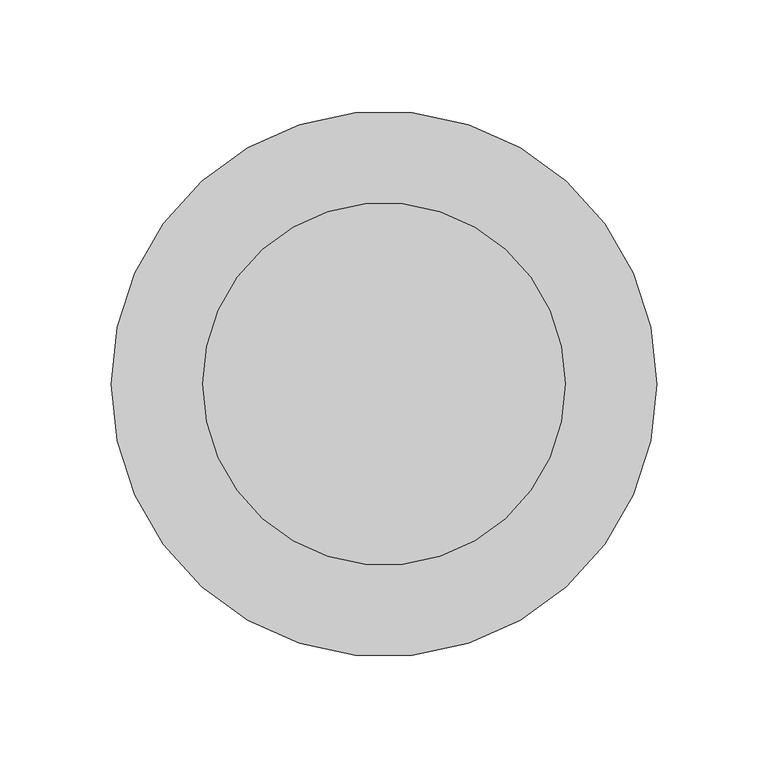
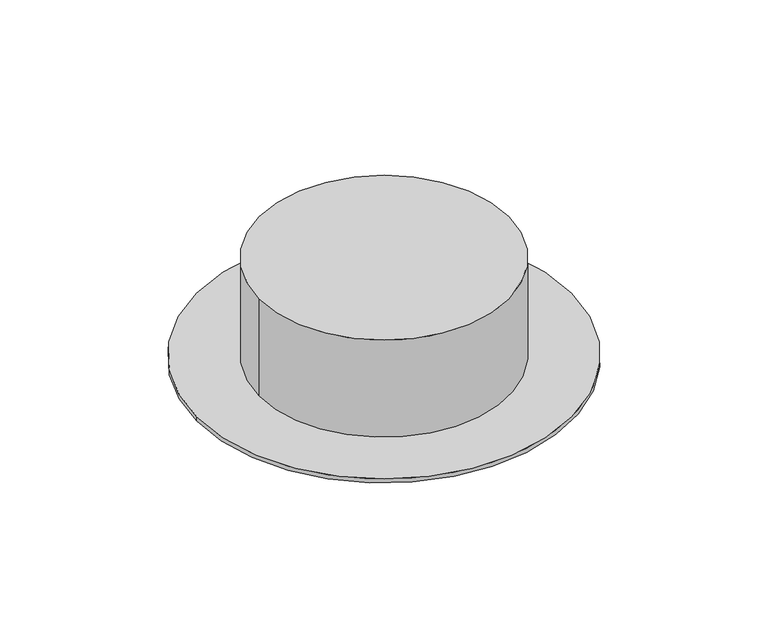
"""IFC4 building model written with IfcOpenShell, lengths in millimetres: proxy geometry, Building Materials_Other_Accessory_PIPE BASE_for ATLANTIS : PIPE BASE_Ø160."""

import ifcopenshell
import ifcopenshell.guid

model = None  # the IFC model being written
_history = None  # IfcOwnerHistory: only IFC2X3 demands one
_inside = {}  # id of a spatial element -> (the spatial element, [elements in it])
_under = {}  # id of a project, library or spatial element -> (it, [spatial elements below it])
_declared = {}  # id of a project -> (the project, [libraries it declares])
_typed = {}  # id of a type object -> (the type object, [elements of that type])
_made_of = {}  # id of a material, layer set ... -> (it, [elements and type objects made of it])


def new_model(schema):
    """Start an empty IFC model of exactly this schema.

    Asked for "IFC4X3", IfcOpenShell would pick the latest addendum, in which some entities
    have other attributes; the version numbers below select the first issue.
    IFC2X3 requires an IfcOwnerHistory on every rooted entity: one is made here for all.
    """
    global model, _history
    if schema == "IFC4X3":
        model = ifcopenshell.file(schema_version=(4, 3, 0, 0))
    else:
        model = ifcopenshell.file(schema=schema)
    _inside.clear()
    _under.clear()
    _declared.clear()
    _typed.clear()
    _made_of.clear()
    _history = None
    if model.schema == "IFC2X3":
        org = make("IfcOrganization", Name="unknown")
        user = make(
            "IfcPersonAndOrganization",
            ThePerson=make("IfcPerson", FamilyName="unknown"),
            TheOrganization=org,
        )
        app = make(
            "IfcApplication",
            ApplicationDeveloper=org,
            Version="unknown",
            ApplicationFullName="unknown",
            ApplicationIdentifier="unknown",
        )
        _history = make(
            "IfcOwnerHistory",
            OwningUser=user,
            OwningApplication=app,
            ChangeAction="ADDED",
            CreationDate=0,
        )
    return model


def make(cls, **values):
    """One entity of the class cls with the attributes given. An attribute that is None is left unset."""
    return model.create_entity(
        cls, **{name: value for name, value in values.items() if value is not None}
    )


def rooted(cls, **values):
    """An entity with a GlobalId (a new one), such as an element, a storey or a relation."""
    return make(cls, GlobalId=ifcopenshell.guid.new(), OwnerHistory=_history, **values)


def si_unit(unit_type, name, prefix=None):
    """IfcSIUnit, for example si_unit("LENGTHUNIT", "METRE", prefix="MILLI")."""
    return make("IfcSIUnit", UnitType=unit_type, Prefix=prefix, Name=name)


def assignment(units):
    """IfcUnitAssignment: the units of a project."""
    return None if units is None else make("IfcUnitAssignment", Units=units)


def point(xyz):
    """IfcCartesianPoint."""
    return None if xyz is None else make("IfcCartesianPoint", Coordinates=xyz)


def direction(xyz):
    """IfcDirection."""
    return None if xyz is None else make("IfcDirection", DirectionRatios=xyz)


def frame(location, z_axis=None, x_axis=None):
    """IfcAxis2Placement3D, a coordinate frame: its origin and axes. An axis left out is left unset."""
    return make(
        "IfcAxis2Placement3D",
        Location=point(location),
        Axis=direction(z_axis),
        RefDirection=direction(x_axis),
    )


def frame_2d(location, x_axis=None):
    """IfcAxis2Placement2D, a coordinate frame in the plane: its origin and x axis."""
    return make(
        "IfcAxis2Placement2D", Location=point(location), RefDirection=direction(x_axis)
    )


def origin():
    """The frame at (0, 0, 0) with its axes left unset."""
    return frame((0.0, 0.0, 0.0))


def origin_with_axes():
    """The frame at (0, 0, 0) with the z axis (0, 0, 1) and the x axis (1, 0, 0) written out."""
    return frame((0.0, 0.0, 0.0), z_axis=(0.0, 0.0, 1.0), x_axis=(1.0, 0.0, 0.0))


def origin_2d():
    """The frame at (0, 0) in the plane with its x axis left unset."""
    return frame_2d((0.0, 0.0))


def place(relative_to, where):
    """IfcLocalPlacement: puts the frame where relative to a parent placement (None: the world)."""
    return make(
        "IfcLocalPlacement", PlacementRelTo=relative_to, RelativePlacement=where
    )


def context(
    kind, dimensions, precision=None, world=None, true_north=None, identifier=None
):
    """IfcGeometricRepresentationContext, for example the 3D "Model" context."""
    return make(
        "IfcGeometricRepresentationContext",
        ContextIdentifier=identifier,
        ContextType=kind,
        CoordinateSpaceDimension=dimensions,
        Precision=precision,
        WorldCoordinateSystem=world,
        TrueNorth=true_north,
    )


def project(units=None, contexts=None):
    """IfcProject with its units and contexts."""
    return rooted(
        "IfcProject",
        Name="project",
        RepresentationContexts=contexts,
        UnitsInContext=assignment(units),
    )


def spatial(cls, under=None, at=None, **own):
    """A site, building, storey or space (cls), placed at a placement, below another one or the project."""
    s = rooted(cls, ObjectPlacement=at, **own)
    if under is not None:
        _under.setdefault(under.id(), (under, []))[1].append(s)
    return s


def circle_curve(where, radius):
    """IfcCircle in the frame where."""
    return make("IfcCircle", Position=where, Radius=radius)


def trimmed(basis, trim1, trim2, sense, master):
    """IfcTrimmedCurve: the piece of a basis curve between two trims."""
    return make(
        "IfcTrimmedCurve",
        BasisCurve=basis,
        Trim1=trim1,
        Trim2=trim2,
        SenseAgreement=sense,
        MasterRepresentation=master,
    )


def segment(curve, same_sense, transition):
    """IfcCompositeCurveSegment."""
    return make(
        "IfcCompositeCurveSegment",
        Transition=transition,
        SameSense=same_sense,
        ParentCurve=curve,
    )


def composite_curve(segments, self_intersect=None):
    """IfcCompositeCurve: segments joined end to end."""
    return make("IfcCompositeCurve", Segments=segments, SelfIntersect=self_intersect)


def outline(outer, holes=None, kind="AREA"):
    """IfcArbitraryClosedProfileDef: a profile drawn as a closed curve; with holes, ...WithVoids."""
    if holes is None:
        return make("IfcArbitraryClosedProfileDef", ProfileType=kind, OuterCurve=outer)
    return make(
        "IfcArbitraryProfileDefWithVoids",
        ProfileType=kind,
        OuterCurve=outer,
        InnerCurves=holes,
    )


def extrude(swept, where, along, depth):
    """IfcExtrudedAreaSolid: the profile swept, set in the frame where, extruded along a direction by depth."""
    return make(
        "IfcExtrudedAreaSolid",
        SweptArea=swept,
        Position=where,
        ExtrudedDirection=direction(along),
        Depth=depth,
    )


def shape(context_of_items, identifier, shape_type, items):
    """IfcShapeRepresentation: the items that make up one representation, for example the "Body"."""
    return make(
        "IfcShapeRepresentation",
        ContextOfItems=context_of_items,
        RepresentationIdentifier=identifier,
        RepresentationType=shape_type,
        Items=items,
    )


def source(mapping_origin, context_of_items, identifier, shape_type, items):
    """IfcRepresentationMap: a shape defined once, which mapped items show again and again."""
    return make(
        "IfcRepresentationMap",
        MappingOrigin=mapping_origin,
        MappedRepresentation=shape(context_of_items, identifier, shape_type, items),
    )


def transform(
    local_origin,
    x_axis=None,
    y_axis=None,
    z_axis=None,
    scale=None,
    scale2=None,
    scale3=None,
    uniform=True,
):
    """IfcCartesianTransformationOperator3D, or its non-uniform kind. x_axis, y_axis, z_axis: its Axis1, 2, 3."""
    if uniform:
        return make(
            "IfcCartesianTransformationOperator3D",
            Axis1=direction(x_axis),
            Axis2=direction(y_axis),
            LocalOrigin=point(local_origin),
            Scale=scale,
            Axis3=direction(z_axis),
        )
    return make(
        "IfcCartesianTransformationOperator3DnonUniform",
        Axis1=direction(x_axis),
        Axis2=direction(y_axis),
        LocalOrigin=point(local_origin),
        Scale=scale,
        Axis3=direction(z_axis),
        Scale2=scale2,
        Scale3=scale3,
    )


def mapped(mapping_source, mapping_target):
    """IfcMappedItem: shows the shape of a source again, moved by a transform."""
    return make(
        "IfcMappedItem", MappingSource=mapping_source, MappingTarget=mapping_target
    )


def made_of(thing, what):
    """Note that an element or type object is made of a material, layer set ...; save() writes the relation."""
    if what is not None:
        _made_of.setdefault(what.id(), (what, []))[1].append(thing)
    return thing


def element(
    cls,
    number,
    at=None,
    inside=None,
    cuts=None,
    type_object=None,
    material=None,
    context=None,
    identifier="Body",
    shape_type=None,
    held_by="IfcProductDefinitionShape",
    body=None,
    shapes=None,
    **own,
):
    """One element of the class cls, such as IfcWall. Its Tag is "e" and its number.

    at: its placement. inside: the storey or other place that contains it. cuts: it is an
    opening in that element (IfcRelVoidsElement). A single representation is given by context,
    identifier, shape_type and body (its items); several are given by shapes. held_by: the class
    of the entity that holds the representations. save() writes the other relations.
    """
    e = rooted(cls, Tag="e%d" % number, ObjectPlacement=at, **own)
    if body is not None:
        shapes = [shape(context, identifier, shape_type, body)]
    if shapes is not None:
        e.Representation = make(held_by, Representations=shapes)
    if inside is not None:
        _inside.setdefault(inside.id(), (inside, []))[1].append(e)
    if cuts is not None:
        rooted(
            "IfcRelVoidsElement", RelatingBuildingElement=cuts, RelatedOpeningElement=e
        )
    if type_object is not None:
        _typed.setdefault(type_object.id(), (type_object, []))[1].append(e)
    return made_of(e, material)


def aggregate(whole, parts):
    """IfcRelAggregates: a whole, such as a stair, and the parts it consists of."""
    return rooted("IfcRelAggregates", RelatingObject=whole, RelatedObjects=parts)


def save(model, path):
    """Write the relations noted so far, then the file.

    IfcRelAggregates (storeys below a building ...), IfcRelContainedInSpatialStructure (elements
    in a storey), IfcRelDefinesByType, IfcRelAssociatesMaterial and IfcRelDeclares: one each for
    every whole, place, type object, material and project.
    """
    for whole, parts in _under.values():
        aggregate(whole, parts)
    for where, things in _inside.values():
        rooted(
            "IfcRelContainedInSpatialStructure",
            RelatedElements=things,
            RelatingStructure=where,
        )
    for kind, things in _typed.values():
        rooted("IfcRelDefinesByType", RelatedObjects=things, RelatingType=kind)
    for what, things in _made_of.values():
        rooted("IfcRelAssociatesMaterial", RelatedObjects=things, RelatingMaterial=what)
    for by, libraries in _declared.values():
        rooted("IfcRelDeclares", RelatingContext=by, RelatedDefinitions=libraries)
    model.write(path)


def generic_models_13485cf7(model_context):
    return source(origin(), model_context, "Body", "SweptSolid", [
        extrude(outline(composite_curve([segment(trimmed(circle_curve(origin_2d(), 81.4), [point((-81.4, 0.0))], [point((81.4, 0.0))], False, "CARTESIAN"), True, "CONTINUOUS"), segment(trimmed(circle_curve(origin_2d(), 81.4), [point((81.4, 0.0))], [point((-81.4, 0.0))], False, "CARTESIAN"), True, "CONTINUOUS")], self_intersect=False)), frame((0.0, 0.0, 2.8), z_axis=(0.0, 0.0, 1.0), x_axis=(1.0, 0.0, 0.0)), (0.0, 0.0, 1.0), 67.2),
        extrude(outline(composite_curve([segment(trimmed(circle_curve(origin_2d(), 122.5), [point((-122.5, 0.0))], [point((122.5, 0.0))], False, "CARTESIAN"), True, "CONTINUOUS"), segment(trimmed(circle_curve(origin_2d(), 122.5), [point((122.5, 0.0))], [point((-122.5, 0.0))], False, "CARTESIAN"), True, "CONTINUOUS")], self_intersect=False)), origin_with_axes(), (0.0, 0.0, 1.0), 2.8),
    ])


if __name__ == "__main__":
    model = new_model("IFC4")
    model_context = context("Model", 3, world=origin())
    ifc_project = project(units=[si_unit("LENGTHUNIT", "METRE", prefix="MILLI")], contexts=[model_context])
    site = spatial("IfcSite", under=ifc_project)
    building = spatial("IfcBuilding", under=site)
    placement = place(None, origin())
    generic_models_shape = generic_models_13485cf7(model_context)
    element("IfcBuildingElementProxy", 1, Name="Building Materials_Other_Accessory_PIPE BASE_for ATLANTIS : PIPE BASE_Ø160", ObjectType="Building Materials_Other_Accessory_PIPE BASE_for ATLANTIS : PIPE BASE_Ø160", at=placement, inside=building, context=model_context, shape_type="MappedRepresentation", body=[
        mapped(generic_models_shape, transform((0.0, 0.0, 0.0), x_axis=(1.0, 0.0, 0.0), y_axis=(0.0, 1.0, 0.0), z_axis=(0.0, 0.0, 1.0))),
    ])
    save(model, "model.ifc")
